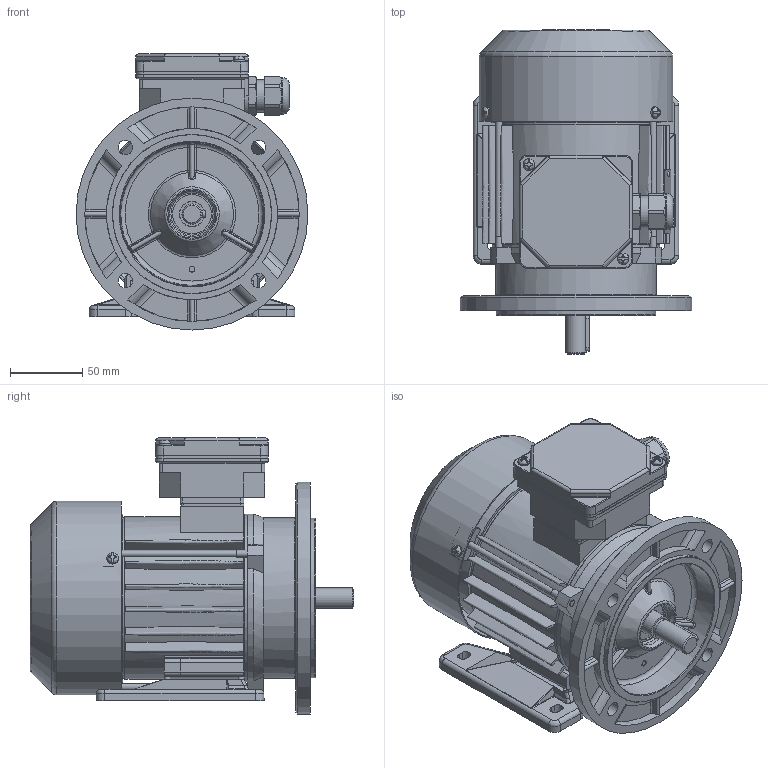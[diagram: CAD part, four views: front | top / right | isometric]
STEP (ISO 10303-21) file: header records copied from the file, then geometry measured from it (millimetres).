
FILE_DESCRIPTION( ( 'Unknown' ), '1' );
FILE_NAME( 'G:/Poczta Tk-1/STP/w.m.71/Sh71/SLh71-.A.stp', 'Unknown', ( 'K. Szlosek' ), ( 'BESEL S.A.' ), 'PSStep 17.0.49', 'Unknown', ' ' );
FILE_SCHEMA( ( 'AUTOMOTIVE_DESIGN { 1 0 10303 214 1 1 1 1 }' ) );
Length unit declared in the file: millimetre
Products named in the file (30): skrznka zaciskowa trójfazowa ; K4-2820 Uszczelka nr 2 Sh71,80; Dławnica M20x1,5; K2-0859 Podstawa skrzynki 6-cio zaciskowej; K2-0860 Pokrywka skrzynki zaciskowej; Assem1; K3-5958 Tarcza łożyskowa P Sh71 (dla dł. A); K1-1244 Tarcza kołnierzowa B5 w.m. 71; Wpust A5x5x25; Wkręt samogwintujący M4x8; Wkręt samogwintujący M4x16; K1-1194 Kadłub z zamkami Sh71-.B; K4-4122 Osłona przewietrznika Sh71-.A; K3-3984 Przewietrznik Sh71; K4-2320 Uszczelka nr 1 Sh71,80; K3-6688 Wał Standard Sh71-A; Nitokołek A 2x6; Łożysko 6203; Śruba ściągająca E_M5x110; Tabliczka znamionowa 32x44; K1-0448 Łapa Sh71-.. 
Assembly tree (45 placements, depth 3):
  Assem1
    K3-5958 Tarcza łożyskowa P Sh71 (dla dł. A)
    K1-1244 Tarcza kołnierzowa B5 w.m. 71
    Wpust A5x5x25
    Wkręt samogwintujący M4x8  x3
    Wkręt samogwintujący M4x16  x2
    K1-1194 Kadłub z zamkami Sh71-.B
    K4-4122 Osłona przewietrznika Sh71-.A
    K3-3984 Przewietrznik Sh71
    K4-2320 Uszczelka nr 1 Sh71,80
    K3-6688 Wał Standard Sh71-A
    Nitokołek A 2x6  x2
    Łożysko 6203  x2
    Łożysko 6203  x2
    Łożysko 6203  x2
    Łożysko 6203  x2
    Łożysko 6203  x2
    Łożysko 6203  x2
    Łożysko 6203  x2
    Łożysko 6203  x2
    Łożysko 6203  x2
    Łożysko 6203  x2
    Śruba ściągająca E_M5x110  x3
    Tabliczka znamionowa 32x44
    K1-0448 Łapa Sh71-.. 
    skrznka zaciskowa trójfazowa 
      K4-2820 Uszczelka nr 2 Sh71,80
      Dławnica M20x1,5
      K2-0859 Podstawa skrzynki 6-cio zaciskowej
      K2-0860 Pokrywka skrzynki zaciskowej
Bounding box: 160 x 223.5 x 190.5 mm (x, y, z)
Volume: 731213.9 mm3; surface area: 435313.9 mm2
Topology: 44 solids, 60 shells, 2001 faces, 5497 edges, 3584 vertices
Faces by surface type: plane 967, cylinder 656, bspline 134, cone 122, torus 86, sphere 36
Full cylindrical faces by diameter (mm): 2 x2, 2.4 x2, 3.7 x7, 3.8 x4, 4 x6, 4.2 x3, 4.5 x1, 4.6 x3, 4.8 x4, 5 x7, 5.5 x3, 5.8 x4, 7 x1, 8 x9, 10 x4, 13.6 x1, 14 x1, 15.9 x1, 16.1 x1, 16.5 x1, 16.6 x2, 17 x4, 17.4 x2, 18.376 x1, 18.38 x1, 20 x1, 22 x2, 22.3 x1, 22.5 x1, 22.7 x1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
Entity records: 83583 total; most frequent: CARTESIAN_POINT 27942, ORIENTED_EDGE 9544, DIRECTION 9253, EDGE_CURVE 4772, AXIS2_PLACEMENT_3D 3410, VERTEX_POINT 3252, LINE 2433, VECTOR 2433
